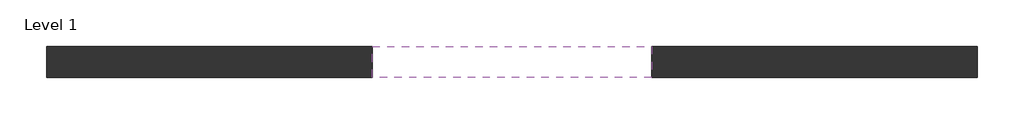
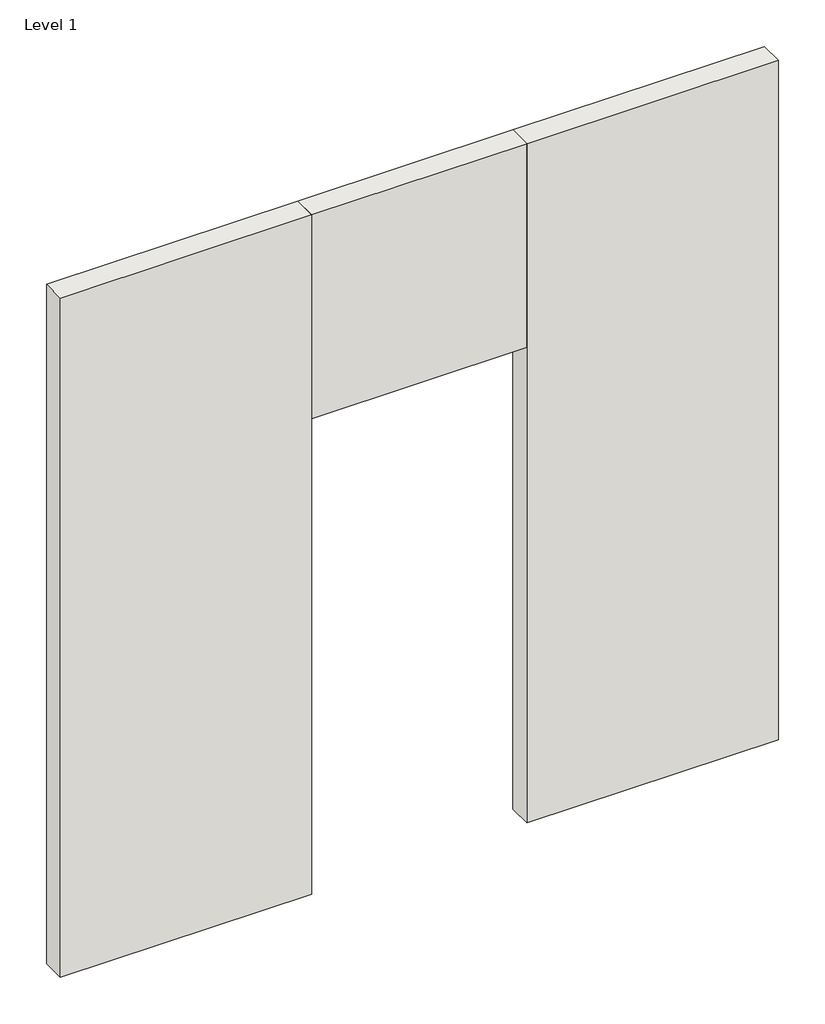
# One storey: 3 walls.
"""IFC4 building model written with IfcOpenShell, lengths in millimetres."""

from ifc_helpers import new_model, si_unit, frame, origin, place, context, project, spatial, polyline, outline, extrude, faceted_brep, element, save

model = new_model("IFC4")

# Units and contexts
model_context = context("Model", 3, world=origin())
ifc_project = project(units=[si_unit("LENGTHUNIT", "METRE", prefix="MILLI")], contexts=[model_context])

# Site, building, storey
site = spatial("IfcSite", under=ifc_project)
building = spatial("IfcBuilding", under=site)
storey = spatial("IfcBuildingStorey", under=building, Name="Level 1", Elevation=0.0)

# Walls
placement = place(None, origin())
element("IfcWall", 1, ObjectType="Generic - 8\"", at=placement, inside=storey, context=model_context, shape_type="Brep", body=[
    faceted_brep([(21148.420095, 2654.6056529, 0.0), (19014.820095, 2654.6056529, 0.0), (19014.820095, 2654.6056529, 4267.2), (19014.820095, 2654.6056529, 6096.0), (21148.420095, 2654.6056529, 6096.0), (21148.420095, 2451.4056529, 0.0), (21148.420095, 2451.4056529, 6096.0), (19014.820095, 2451.4056529, 6096.0), (19014.820095, 2451.4056529, 4267.2), (19014.820095, 2451.4056529, 0.0)], [[[0, 1, 2, 3, 4]], [[5, 6, 7, 8, 9]], [[1, 0, 5, 9]], [[3, 2, 1, 9, 8, 7]], [[4, 3, 7, 6]], [[0, 4, 6, 5]]]),
])
element("IfcWall", 2, ObjectType="Generic - 8\"", at=placement, inside=storey, context=model_context, shape_type="Brep", body=[
    faceted_brep([(17186.020095, 2654.6056529, 0.0), (15052.420095, 2654.6056529, 0.0), (15052.420095, 2654.6056529, 6096.0), (17186.020095, 2654.6056529, 6096.0), (17186.020095, 2654.6056529, 4267.2), (17186.020095, 2451.4056529, 0.0), (17186.020095, 2451.4056529, 4267.2), (17186.020095, 2451.4056529, 6096.0), (15052.420095, 2451.4056529, 6096.0), (15052.420095, 2451.4056529, 0.0)], [[[0, 1, 2, 3, 4]], [[5, 6, 7, 8, 9]], [[1, 0, 5, 9]], [[2, 1, 9, 8]], [[3, 2, 8, 7]], [[0, 4, 3, 7, 6, 5]]]),
])
element("IfcWall", 3, ObjectType="Generic - 8\"", at=placement, inside=storey, context=model_context, shape_type="SweptSolid", body=[
    extrude(outline(polyline([(17186.020095, 2654.6056529), (19014.820095, 2654.6056529), (19014.820095, 2451.4056529), (17186.020095, 2451.4056529), (17186.020095, 2654.6056529)])), frame((0.0, 0.0, 4267.2), z_axis=(0.0, 0.0, 1.0), x_axis=(1.0, 0.0, 0.0)), (0.0, 0.0, 1.0), 1828.8),
])

save(model, "model.ifc")
